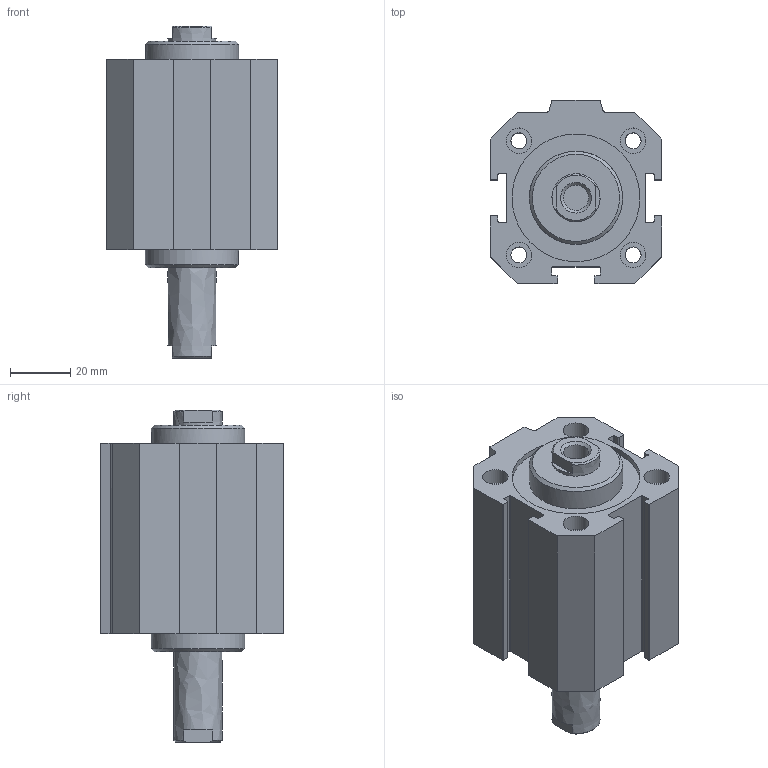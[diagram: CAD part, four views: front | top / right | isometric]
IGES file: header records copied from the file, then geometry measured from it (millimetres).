
Global section: file name: 1514_40_0025; native system: Autodesk Inventor 2014; preprocessor: unknown; author: A. Manieri; date: 20160824.120208; units: millimetre
Bounding box: 57 x 61 x 110.5 mm (x, y, z)
Volume: 162498.8 mm3; surface area: 48284.3 mm2
Topology: 2 solids, 2 shells, 130 faces, 339 edges, 233 vertices
Faces by surface type: bspline 130
